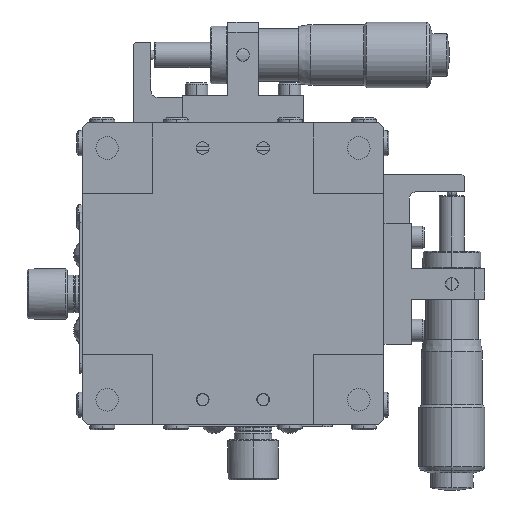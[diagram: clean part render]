
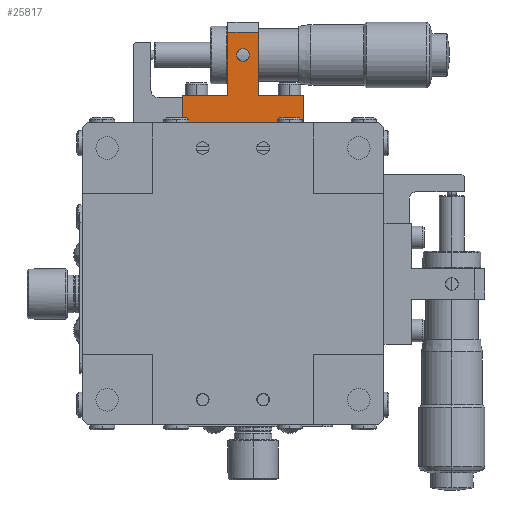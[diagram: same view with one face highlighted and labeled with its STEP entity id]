
A CAD part, front view. The second image highlights one B-rep face of the part: STEP entity #25817.
In plain terms, the highlighted planar face has unit normal (0, -1, 0).
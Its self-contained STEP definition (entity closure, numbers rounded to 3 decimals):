
#2040 = ORIENTED_EDGE ( 'NONE', *, *, #17675, .T. ) ;
#2431 = LINE ( 'NONE', #9896, #72462 ) ;
#3305 = CARTESIAN_POINT ( 'NONE',  ( 39.9, 16.399, 14.968 ) ) ;
#6988 = CARTESIAN_POINT ( 'NONE',  ( 54.9, 16.4, 2.468 ) ) ;
#7710 = EDGE_CURVE ( 'NONE', #42391, #18966, #38283, .T. ) ;
#8586 = CARTESIAN_POINT ( 'NONE',  ( 45.9, 16.4, 5.968 ) ) ;
#9896 = CARTESIAN_POINT ( 'NONE',  ( 54.9, 16.4, -0.282 ) ) ;
#11780 = EDGE_CURVE ( 'NONE', #58679, #62546, #75749, .T. ) ;
#12441 = CARTESIAN_POINT ( 'NONE',  ( 42.9, 16.399, 11.718 ) ) ;
#12647 = VECTOR ( 'NONE', #80646, 1000. ) ;
#13923 = ORIENTED_EDGE ( 'NONE', *, *, #11780, .T. ) ;
#15256 = DIRECTION ( 'NONE',  ( -1., 0., 0. ) ) ;
#15600 = DIRECTION ( 'NONE',  ( 0., 0., 1. ) ) ;
#16043 = ORIENTED_EDGE ( 'NONE', *, *, #74113, .T. ) ;
#16761 = DIRECTION ( 'NONE',  ( 0., 1., 0. ) ) ;
#16893 = CARTESIAN_POINT ( 'NONE',  ( 42.9, 16.399, 9.218 ) ) ;
#17263 = CARTESIAN_POINT ( 'NONE',  ( 45.9, 16.4, 2.468 ) ) ;
#17675 = EDGE_CURVE ( 'NONE', #18966, #72927, #61453, .T. ) ;
#17780 = CARTESIAN_POINT ( 'NONE',  ( 45.9, 16.399, 14.968 ) ) ;
#18966 = VERTEX_POINT ( 'NONE', #81521 ) ;
#19123 = VECTOR ( 'NONE', #70009, 1000. ) ;
#20132 = DIRECTION ( 'NONE',  ( 0., -1., 0. ) ) ;
#21363 = EDGE_LOOP ( 'NONE', ( #13923, #57751, #85209, #30460, #2040, #68938, #21918, #59620 ) ) ;
#21918 = ORIENTED_EDGE ( 'NONE', *, *, #44129, .T. ) ;
#22660 = VERTEX_POINT ( 'NONE', #17780 ) ;
#25817 = ADVANCED_FACE ( 'NONE', ( #79025, #50538 ), #33861, .T. ) ;
#28259 = VECTOR ( 'NONE', #88512, 1000. ) ;
#29142 = CARTESIAN_POINT ( 'NONE',  ( 39.9, 16.4, 5.968 ) ) ;
#30460 = ORIENTED_EDGE ( 'NONE', *, *, #7710, .T. ) ;
#31680 = CARTESIAN_POINT ( 'NONE',  ( 30.9, 16.4, 5.968 ) ) ;
#31922 = VERTEX_POINT ( 'NONE', #12441 ) ;
#33626 = EDGE_CURVE ( 'NONE', #72927, #75232, #87147, .T. ) ;
#33806 = AXIS2_PLACEMENT_3D ( 'NONE', #83271, #41381, #90318 ) ;
#33861 = PLANE ( 'NONE',  #67279 ) ;
#37775 = LINE ( 'NONE', #76750, #19123 ) ;
#38283 = LINE ( 'NONE', #29142, #73284 ) ;
#38530 = VECTOR ( 'NONE', #15256, 1000. ) ;
#39526 = CARTESIAN_POINT ( 'NONE',  ( 42.9, 16.4, -3.032 ) ) ;
#40707 = VECTOR ( 'NONE', #46900, 1000. ) ;
#41381 = DIRECTION ( 'NONE',  ( 0., 1., 0. ) ) ;
#42391 = VERTEX_POINT ( 'NONE', #3305 ) ;
#42467 = CIRCLE ( 'NONE', #33806, 1.25 ) ;
#43479 = ORIENTED_EDGE ( 'NONE', *, *, #73436, .T. ) ;
#43919 = AXIS2_PLACEMENT_3D ( 'NONE', #58659, #16761, #65729 ) ;
#44129 = EDGE_CURVE ( 'NONE', #75232, #46426, #65472, .T. ) ;
#45615 = VERTEX_POINT ( 'NONE', #16893 ) ;
#46426 = VERTEX_POINT ( 'NONE', #66809 ) ;
#46900 = DIRECTION ( 'NONE',  ( -1., 0., 0. ) ) ;
#50538 = FACE_OUTER_BOUND ( 'NONE', #21363, .T. ) ;
#51775 = DIRECTION ( 'NONE',  ( 0., 0., -1. ) ) ;
#57183 = CARTESIAN_POINT ( 'NONE',  ( 42.9, 16.4, 2.468 ) ) ;
#57751 = ORIENTED_EDGE ( 'NONE', *, *, #85302, .T. ) ;
#58659 = CARTESIAN_POINT ( 'NONE',  ( 42.9, 16.399, 10.468 ) ) ;
#58679 = VERTEX_POINT ( 'NONE', #6988 ) ;
#59620 = ORIENTED_EDGE ( 'NONE', *, *, #71334, .F. ) ;
#60312 = EDGE_CURVE ( 'NONE', #22660, #42391, #37775, .T. ) ;
#61016 = VECTOR ( 'NONE', #15600, 1000. ) ;
#61453 = LINE ( 'NONE', #81812, #40707 ) ;
#61982 = CARTESIAN_POINT ( 'NONE',  ( 30.42, 16.4, -3.392 ) ) ;
#62546 = VERTEX_POINT ( 'NONE', #17263 ) ;
#65472 = LINE ( 'NONE', #39526, #28259 ) ;
#65729 = DIRECTION ( 'NONE',  ( 0., 0., -1. ) ) ;
#66809 = CARTESIAN_POINT ( 'NONE',  ( 54.9, 16.4, -3.032 ) ) ;
#67279 = AXIS2_PLACEMENT_3D ( 'NONE', #61982, #20132, #69061 ) ;
#68938 = ORIENTED_EDGE ( 'NONE', *, *, #33626, .T. ) ;
#69061 = DIRECTION ( 'NONE',  ( 1., 0., 0. ) ) ;
#69093 = EDGE_LOOP ( 'NONE', ( #16043, #43479 ) ) ;
#70009 = DIRECTION ( 'NONE',  ( -1., 0., 0. ) ) ;
#71334 = EDGE_CURVE ( 'NONE', #58679, #46426, #2431, .T. ) ;
#71664 = CIRCLE ( 'NONE', #43919, 1.25 ) ;
#72236 = CARTESIAN_POINT ( 'NONE',  ( 30.9, 16.4, -3.032 ) ) ;
#72462 = VECTOR ( 'NONE', #51775, 1000. ) ;
#72927 = VERTEX_POINT ( 'NONE', #77560 ) ;
#73284 = VECTOR ( 'NONE', #78109, 1000. ) ;
#73436 = EDGE_CURVE ( 'NONE', #31922, #45615, #42467, .T. ) ;
#74113 = EDGE_CURVE ( 'NONE', #45615, #31922, #71664, .T. ) ;
#75232 = VERTEX_POINT ( 'NONE', #72236 ) ;
#75749 = LINE ( 'NONE', #57183, #38530 ) ;
#76750 = CARTESIAN_POINT ( 'NONE',  ( 42.9, 16.399, 14.968 ) ) ;
#77560 = CARTESIAN_POINT ( 'NONE',  ( 30.9, 16.4, 2.468 ) ) ;
#78109 = DIRECTION ( 'NONE',  ( 0., 0., -1. ) ) ;
#79025 = FACE_BOUND ( 'NONE', #69093, .T. ) ;
#80646 = DIRECTION ( 'NONE',  ( 0., 0., -1. ) ) ;
#81521 = CARTESIAN_POINT ( 'NONE',  ( 39.9, 16.4, 2.468 ) ) ;
#81812 = CARTESIAN_POINT ( 'NONE',  ( 42.9, 16.4, 2.468 ) ) ;
#81876 = LINE ( 'NONE', #8586, #61016 ) ;
#83271 = CARTESIAN_POINT ( 'NONE',  ( 42.9, 16.399, 10.468 ) ) ;
#85209 = ORIENTED_EDGE ( 'NONE', *, *, #60312, .T. ) ;
#85302 = EDGE_CURVE ( 'NONE', #62546, #22660, #81876, .T. ) ;
#87147 = LINE ( 'NONE', #31680, #12647 ) ;
#88512 = DIRECTION ( 'NONE',  ( 1., 0., 0. ) ) ;
#90318 = DIRECTION ( 'NONE',  ( 0., 0., -1. ) ) ;
